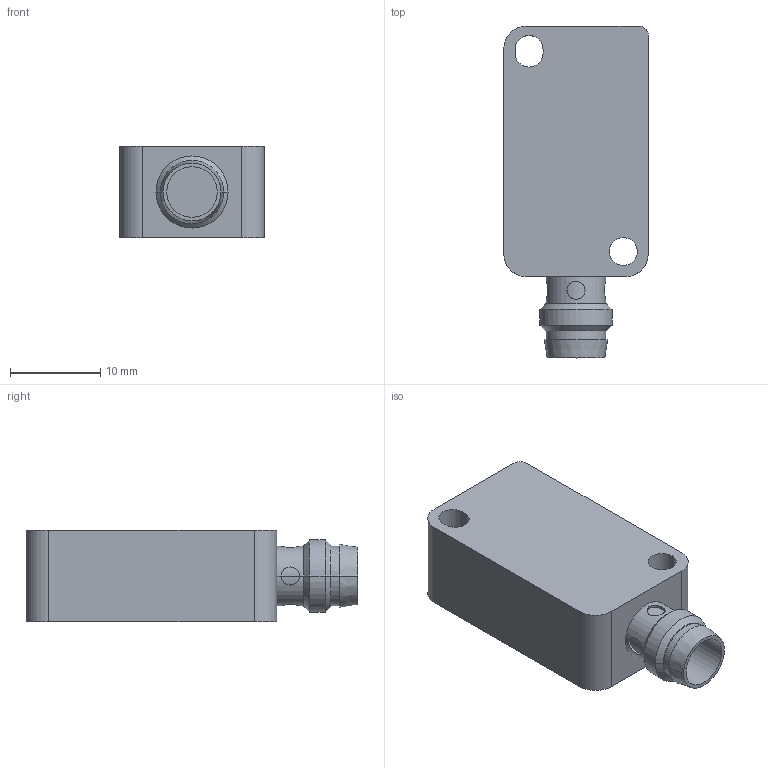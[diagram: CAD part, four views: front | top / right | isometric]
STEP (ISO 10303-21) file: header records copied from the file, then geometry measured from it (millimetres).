
FILE_DESCRIPTION( ( '' ), '1' );
FILE_NAME( '//partserver001.servicenet/client_exchange/iodir/jobs/output/wkb10605595_no0/STEP/is5071_2_03.stp', '2008-05-15T15:10:21', ( '' ), ( '' ), ' ', ' ', ' ' );
FILE_SCHEMA( ( 'CONFIG_CONTROL_DESIGN' ) );
Length unit declared in the file: millimetre
Products named in the file (1): 1
Bounding box: 16 x 36.8 x 10.2 mm (x, y, z)
Volume: 4535.4 mm3; surface area: 2251.2 mm2
Topology: 1 solids, 1 shells, 58 faces, 134 edges, 88 vertices
Faces by surface type: cylinder 36, plane 16, cone 6
Entity records: 1942 total; most frequent: CARTESIAN_POINT 561, DIRECTION 280, ORIENTED_EDGE 268, EDGE_CURVE 134, AXIS2_PLACEMENT_3D 111, VERTEX_POINT 88, EDGE_LOOP 72, ADVANCED_FACE 58
